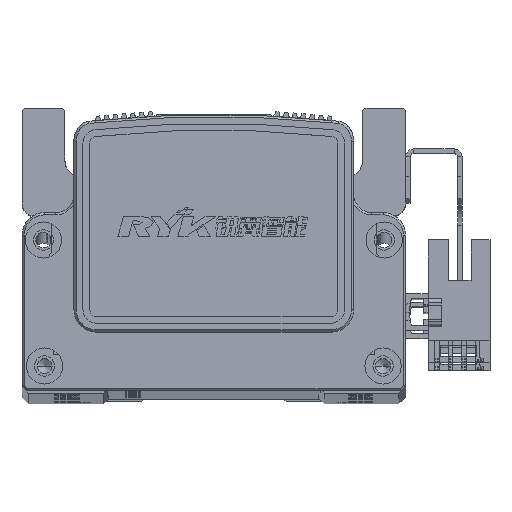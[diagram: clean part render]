
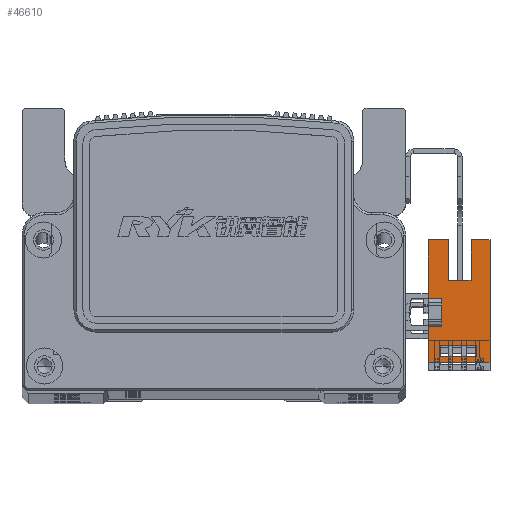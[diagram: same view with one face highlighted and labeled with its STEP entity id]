
A CAD part, top view. The second image highlights one B-rep face of the part: STEP entity #46610.
In plain terms, the highlighted planar face has unit normal (0, 0, 1) as drawn and (1, 0, 0) by its records, which use the part's own axes.
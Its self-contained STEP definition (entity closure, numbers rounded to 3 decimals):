
#2902 = CARTESIAN_POINT ( 'NONE',  ( 3.2, -11.1, 3. ) ) ;
#2908 = CARTESIAN_POINT ( 'NONE',  ( 3.2, 16.1, -6.5 ) ) ;
#2939 = CARTESIAN_POINT ( 'NONE',  ( 3.2, 3.1, 3. ) ) ;
#2945 = CARTESIAN_POINT ( 'NONE',  ( 3.2, -7.33, 0.3 ) ) ;
#2964 = CARTESIAN_POINT ( 'NONE',  ( 3.2, 7.1, -1.5 ) ) ;
#2967 = CARTESIAN_POINT ( 'NONE',  ( 3.2, -3.1, 3. ) ) ;
#2975 = CARTESIAN_POINT ( 'NONE',  ( 3.2, -7.33, -7.7 ) ) ;
#2987 = CARTESIAN_POINT ( 'NONE',  ( 3.2, 16.1, -10.7 ) ) ;
#2997 = CARTESIAN_POINT ( 'NONE',  ( 3.2, -9.83, 0.3 ) ) ;
#3017 = CARTESIAN_POINT ( 'NONE',  ( 3.2, 16.1, -1.5 ) ) ;
#3034 = CARTESIAN_POINT ( 'NONE',  ( 3.2, -11.1, -10.7 ) ) ;
#3037 = CARTESIAN_POINT ( 'NONE',  ( 3.2, -3.1, 0. ) ) ;
#3038 = CARTESIAN_POINT ( 'NONE',  ( 3.2, -9.83, -7.7 ) ) ;
#3055 = CARTESIAN_POINT ( 'NONE',  ( 3.2, 16.1, 3. ) ) ;
#3092 = CARTESIAN_POINT ( 'NONE',  ( 3.2, 7.1, -6.5 ) ) ;
#3120 = CARTESIAN_POINT ( 'NONE',  ( 3.2, 3.1, 0. ) ) ;
#25476 = EDGE_LOOP ( 'NONE', ( #32771, #32798, #32814, #32764, #32795, #32778, #32791, #32872, #32777, #32756, #32757, #32779 ) ) ;
#25483 = EDGE_LOOP ( 'NONE', ( #32815, #32760, #32809, #32801 ) ) ;
#30653 = VERTEX_POINT ( 'NONE', #2908 ) ;
#30664 = VERTEX_POINT ( 'NONE', #2902 ) ;
#30682 = VERTEX_POINT ( 'NONE', #2939 ) ;
#30695 = VERTEX_POINT ( 'NONE', #2967 ) ;
#30696 = VERTEX_POINT ( 'NONE', #2987 ) ;
#30719 = VERTEX_POINT ( 'NONE', #2975 ) ;
#30730 = VERTEX_POINT ( 'NONE', #2945 ) ;
#30734 = VERTEX_POINT ( 'NONE', #2964 ) ;
#30747 = VERTEX_POINT ( 'NONE', #3037 ) ;
#30756 = VERTEX_POINT ( 'NONE', #3017 ) ;
#30759 = VERTEX_POINT ( 'NONE', #3038 ) ;
#30761 = VERTEX_POINT ( 'NONE', #3034 ) ;
#30763 = VERTEX_POINT ( 'NONE', #3055 ) ;
#30791 = VERTEX_POINT ( 'NONE', #2997 ) ;
#30820 = VERTEX_POINT ( 'NONE', #3092 ) ;
#30842 = VERTEX_POINT ( 'NONE', #3120 ) ;
#32756 = ORIENTED_EDGE ( 'NONE', *, *, #62722, .F. ) ;
#32757 = ORIENTED_EDGE ( 'NONE', *, *, #62679, .T. ) ;
#32760 = ORIENTED_EDGE ( 'NONE', *, *, #62699, .F. ) ;
#32764 = ORIENTED_EDGE ( 'NONE', *, *, #62719, .T. ) ;
#32771 = ORIENTED_EDGE ( 'NONE', *, *, #62697, .T. ) ;
#32777 = ORIENTED_EDGE ( 'NONE', *, *, #62603, .F. ) ;
#32778 = ORIENTED_EDGE ( 'NONE', *, *, #62702, .F. ) ;
#32779 = ORIENTED_EDGE ( 'NONE', *, *, #62541, .T. ) ;
#32791 = ORIENTED_EDGE ( 'NONE', *, *, #62704, .F. ) ;
#32795 = ORIENTED_EDGE ( 'NONE', *, *, #62646, .F. ) ;
#32798 = ORIENTED_EDGE ( 'NONE', *, *, #62696, .T. ) ;
#32801 = ORIENTED_EDGE ( 'NONE', *, *, #62716, .F. ) ;
#32809 = ORIENTED_EDGE ( 'NONE', *, *, #62683, .F. ) ;
#32814 = ORIENTED_EDGE ( 'NONE', *, *, #62680, .T. ) ;
#32815 = ORIENTED_EDGE ( 'NONE', *, *, #62688, .F. ) ;
#32872 = ORIENTED_EDGE ( 'NONE', *, *, #62673, .F. ) ;
#41302 = LINE ( 'NONE', #43699, #41307 ) ;
#41307 = VECTOR ( 'NONE', #43701, 1000. ) ;
#41313 = VECTOR ( 'NONE', #43896, 1000. ) ;
#41371 = LINE ( 'NONE', #43912, #41313 ) ;
#41382 = LINE ( 'NONE', #43997, #41391 ) ;
#41391 = VECTOR ( 'NONE', #43998, 1000. ) ;
#41457 = LINE ( 'NONE', #43055, #41458 ) ;
#41458 = VECTOR ( 'NONE', #43082, 1000. ) ;
#41462 = LINE ( 'NONE', #43054, #41488 ) ;
#41482 = VECTOR ( 'NONE', #43074, 1000. ) ;
#41483 = LINE ( 'NONE', #43089, #41489 ) ;
#41488 = VECTOR ( 'NONE', #43087, 1000. ) ;
#41489 = VECTOR ( 'NONE', #43063, 1000. ) ;
#41500 = LINE ( 'NONE', #43093, #41482 ) ;
#41504 = VECTOR ( 'NONE', #44065, 1000. ) ;
#41509 = LINE ( 'NONE', #44091, #41554 ) ;
#41512 = VECTOR ( 'NONE', #44075, 1000. ) ;
#41518 = LINE ( 'NONE', #44122, #41519 ) ;
#41519 = VECTOR ( 'NONE', #44112, 1000. ) ;
#41525 = LINE ( 'NONE', #44053, #41536 ) ;
#41535 = VECTOR ( 'NONE', #44076, 1000. ) ;
#41536 = VECTOR ( 'NONE', #44081, 1000. ) ;
#41541 = LINE ( 'NONE', #44083, #41512 ) ;
#41546 = LINE ( 'NONE', #44073, #41535 ) ;
#41547 = LINE ( 'NONE', #44054, #41504 ) ;
#41552 = LINE ( 'NONE', #44078, #41553 ) ;
#41553 = VECTOR ( 'NONE', #44086, 1000. ) ;
#41554 = VECTOR ( 'NONE', #44082, 1000. ) ;
#41579 = VECTOR ( 'NONE', #44102, 1000. ) ;
#41597 = LINE ( 'NONE', #44132, #41579 ) ;
#41613 = LINE ( 'NONE', #44124, #41615 ) ;
#41615 = VECTOR ( 'NONE', #44127, 1000. ) ;
#43054 = CARTESIAN_POINT ( 'NONE',  ( 3.2, -3.1, 3. ) ) ;
#43055 = CARTESIAN_POINT ( 'NONE',  ( 3.2, 16.1, -7.7 ) ) ;
#43063 = DIRECTION ( 'NONE',  ( 0., 1., 0. ) ) ;
#43074 = DIRECTION ( 'NONE',  ( 0., 1., 0. ) ) ;
#43082 = DIRECTION ( 'NONE',  ( 0., 1., 0. ) ) ;
#43087 = DIRECTION ( 'NONE',  ( 0., 0., -1. ) ) ;
#43089 = CARTESIAN_POINT ( 'NONE',  ( 3.2, 25.1, -1.5 ) ) ;
#43093 = CARTESIAN_POINT ( 'NONE',  ( 3.2, 16.1, -10.7 ) ) ;
#43699 = CARTESIAN_POINT ( 'NONE',  ( 3.2, 16.1, -10.7 ) ) ;
#43701 = DIRECTION ( 'NONE',  ( 0., 0., 1. ) ) ;
#43896 = DIRECTION ( 'NONE',  ( 0., 1., 0. ) ) ;
#43912 = CARTESIAN_POINT ( 'NONE',  ( 3.2, 16.1, 3. ) ) ;
#43997 = CARTESIAN_POINT ( 'NONE',  ( 3.2, 16.1, 3. ) ) ;
#43998 = DIRECTION ( 'NONE',  ( 0., 1., 0. ) ) ;
#44053 = CARTESIAN_POINT ( 'NONE',  ( 3.2, 16.1, 0.3 ) ) ;
#44054 = CARTESIAN_POINT ( 'NONE',  ( 3.2, 0., 0. ) ) ;
#44065 = DIRECTION ( 'NONE',  ( 0., 1., 0. ) ) ;
#44073 = CARTESIAN_POINT ( 'NONE',  ( 3.2, -7.33, -10.7 ) ) ;
#44075 = DIRECTION ( 'NONE',  ( 0., -1., 0. ) ) ;
#44076 = DIRECTION ( 'NONE',  ( 0., 0., 1. ) ) ;
#44078 = CARTESIAN_POINT ( 'NONE',  ( 3.2, 3.1, 3. ) ) ;
#44081 = DIRECTION ( 'NONE',  ( 0., -1., 0. ) ) ;
#44082 = DIRECTION ( 'NONE',  ( 0., 0., 1. ) ) ;
#44083 = CARTESIAN_POINT ( 'NONE',  ( 3.2, 25.1, -6.5 ) ) ;
#44086 = DIRECTION ( 'NONE',  ( 0., 0., 1. ) ) ;
#44091 = CARTESIAN_POINT ( 'NONE',  ( 3.2, 7.1, -6.5 ) ) ;
#44102 = DIRECTION ( 'NONE',  ( 0., 0., 1. ) ) ;
#44112 = DIRECTION ( 'NONE',  ( 0., 0., -1. ) ) ;
#44122 = CARTESIAN_POINT ( 'NONE',  ( 3.2, -9.83, -10.7 ) ) ;
#44124 = CARTESIAN_POINT ( 'NONE',  ( 3.2, 16.1, -10.7 ) ) ;
#44127 = DIRECTION ( 'NONE',  ( 0., 0., 1. ) ) ;
#44132 = CARTESIAN_POINT ( 'NONE',  ( 3.2, -11.1, 3. ) ) ;
#46610 = ADVANCED_FACE ( 'NONE', ( #54038, #54040 ), #56916, .T. ) ;
#54038 = FACE_OUTER_BOUND ( 'NONE', #25476, .T. ) ;
#54040 = FACE_BOUND ( 'NONE', #25483, .T. ) ;
#55643 = AXIS2_PLACEMENT_3D ( 'NONE', #56915, #56908, #56924 ) ;
#56908 = DIRECTION ( 'NONE',  ( 1., 0., 0. ) ) ;
#56915 = CARTESIAN_POINT ( 'NONE',  ( 3.2, 16.1, -10.7 ) ) ;
#56916 = PLANE ( 'NONE',  #55643 ) ;
#56924 = DIRECTION ( 'NONE',  ( 0., 1., 0. ) ) ;
#62541 = EDGE_CURVE ( 'NONE', #30696, #30653, #41302, .T. ) ;
#62603 = EDGE_CURVE ( 'NONE', #30664, #30695, #41371, .T. ) ;
#62646 = EDGE_CURVE ( 'NONE', #30682, #30763, #41382, .T. ) ;
#62673 = EDGE_CURVE ( 'NONE', #30695, #30747, #41462, .T. ) ;
#62679 = EDGE_CURVE ( 'NONE', #30761, #30696, #41500, .T. ) ;
#62680 = EDGE_CURVE ( 'NONE', #30734, #30756, #41483, .T. ) ;
#62683 = EDGE_CURVE ( 'NONE', #30759, #30719, #41457, .T. ) ;
#62688 = EDGE_CURVE ( 'NONE', #30730, #30791, #41525, .T. ) ;
#62696 = EDGE_CURVE ( 'NONE', #30820, #30734, #41509, .T. ) ;
#62697 = EDGE_CURVE ( 'NONE', #30653, #30820, #41541, .T. ) ;
#62699 = EDGE_CURVE ( 'NONE', #30719, #30730, #41546, .T. ) ;
#62702 = EDGE_CURVE ( 'NONE', #30842, #30682, #41552, .T. ) ;
#62704 = EDGE_CURVE ( 'NONE', #30747, #30842, #41547, .T. ) ;
#62716 = EDGE_CURVE ( 'NONE', #30791, #30759, #41518, .T. ) ;
#62719 = EDGE_CURVE ( 'NONE', #30756, #30763, #41613, .T. ) ;
#62722 = EDGE_CURVE ( 'NONE', #30761, #30664, #41597, .T. ) ;
